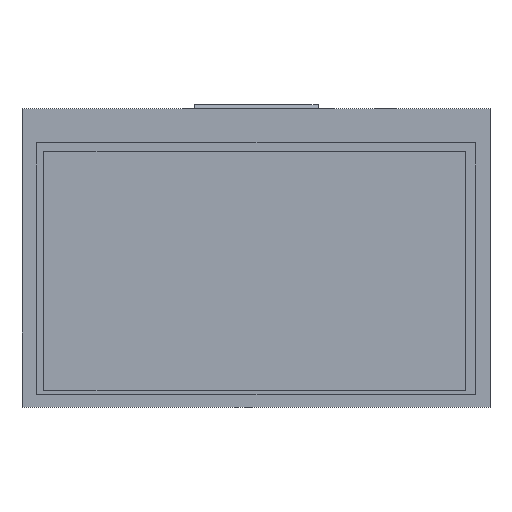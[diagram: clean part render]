
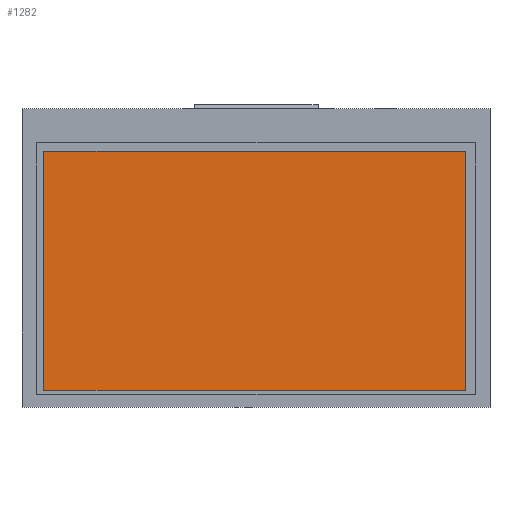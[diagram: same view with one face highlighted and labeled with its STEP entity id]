
A CAD part, top view. The second image highlights one B-rep face of the part: STEP entity #1282.
In plain terms, the highlighted planar face has unit normal (0, 0, 1).
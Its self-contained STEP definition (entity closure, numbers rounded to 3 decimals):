
#1282=ADVANCED_FACE('',(#1583),#1434,.T.);
#1434=PLANE('',#3699);
#1583=FACE_OUTER_BOUND('',#1738,.T.);
#1738=EDGE_LOOP('',(#2009,#2010,#2011,#2012));
#2009=ORIENTED_EDGE('',*,*,#2785,.T.);
#2010=ORIENTED_EDGE('',*,*,#2789,.T.);
#2011=ORIENTED_EDGE('',*,*,#2792,.T.);
#2012=ORIENTED_EDGE('',*,*,#2794,.T.);
#2549=VERTEX_POINT('',#4603);
#2550=VERTEX_POINT('',#4605);
#2552=VERTEX_POINT('',#4611);
#2554=VERTEX_POINT('',#4617);
#2785=EDGE_CURVE('',#2550,#2549,#3102,.T.);
#2789=EDGE_CURVE('',#2549,#2552,#3106,.T.);
#2792=EDGE_CURVE('',#2552,#2554,#3109,.T.);
#2794=EDGE_CURVE('',#2554,#2550,#3111,.T.);
#3102=LINE('',#4604,#3413);
#3106=LINE('',#4612,#3417);
#3109=LINE('',#4618,#3420);
#3111=LINE('',#4621,#3422);
#3413=VECTOR('',#3955,1.);
#3417=VECTOR('',#3961,1.);
#3420=VECTOR('',#3966,1.);
#3422=VECTOR('',#3970,1.);
#3699=AXIS2_PLACEMENT_3D('',#4623,#3973,#3974);
#3955=DIRECTION('',(0.,-1.,0.));
#3961=DIRECTION('',(1.,0.,0.));
#3966=DIRECTION('',(0.,1.,0.));
#3970=DIRECTION('',(-1.,0.,0.));
#3973=DIRECTION('',(0.,0.,1.));
#3974=DIRECTION('',(1.,0.,0.));
#4603=CARTESIAN_POINT('',(-35.48,-28.07,3.55));
#4604=CARTESIAN_POINT('',(-35.48,25.79,3.55));
#4605=CARTESIAN_POINT('',(-35.48,25.79,3.55));
#4611=CARTESIAN_POINT('',(59.56,-28.07,3.55));
#4612=CARTESIAN_POINT('',(-35.48,-28.07,3.55));
#4617=CARTESIAN_POINT('',(59.56,25.79,3.55));
#4618=CARTESIAN_POINT('',(59.56,-28.07,3.55));
#4621=CARTESIAN_POINT('',(59.56,25.79,3.55));
#4623=CARTESIAN_POINT('',(0.,0.,3.55));
